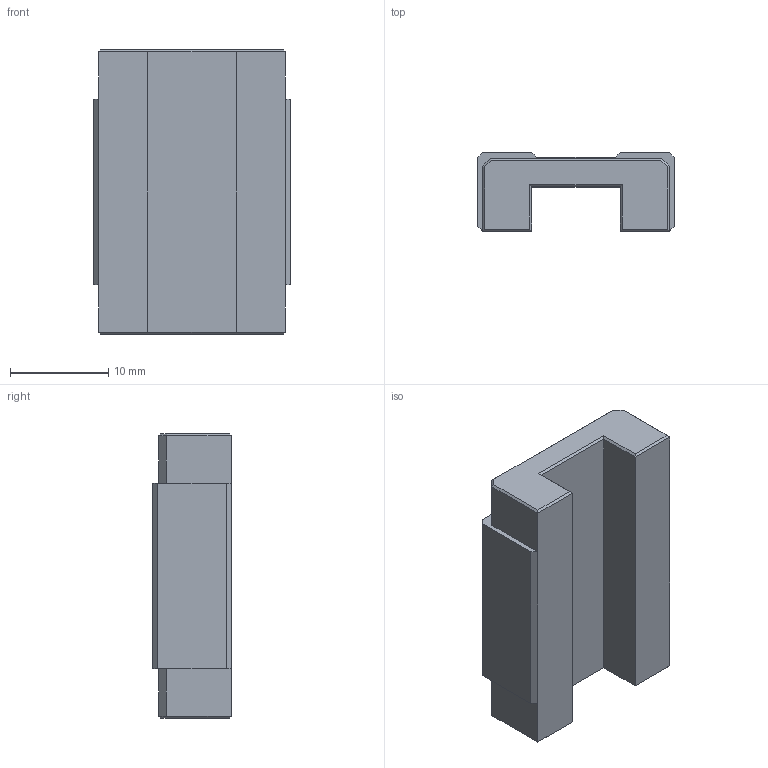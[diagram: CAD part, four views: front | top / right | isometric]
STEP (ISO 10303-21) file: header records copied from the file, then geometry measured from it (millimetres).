
FILE_DESCRIPTION(/* description */ (''),/* implementation_level */ '2;1');
FILE_NAME(/* name */ 'C:\Users\daviddillkoetter\ownCloud\Kamp und Kötter\Artikel\Miniaturfuehrungen_KPM\Step\KPMW-09C-BSZ0.stp',/* time_stamp */ '2020-12-07T12:24:07+01:00',/* author */ ('daviddillkoetter'),/* organization */ (''),/* preprocessor_version */ 'ST-DEVELOPER v18.1',/* originating_system */ 'Autodesk Inventor 2021',/* authorisation */ '');
FILE_SCHEMA (('AUTOMOTIVE_DESIGN { 1 0 10303 214 3 1 1 }'));
Length unit declared in the file: millimetre
Products named in the file (1): KPMW-09C-BSZ0
Bounding box: 20 x 8 x 28.9 mm (x, y, z)
Volume: 3060.6 mm3; surface area: 2192.2 mm2
Topology: 1 solids, 1 shells, 62 faces, 152 edges, 92 vertices
Faces by surface type: plane 50, cone 8, cylinder 4
Full cylindrical faces by diameter (mm): 2.459 x4
Entity records: 1819 total; most frequent: CARTESIAN_POINT 303, ORIENTED_EDGE 296, DIRECTION 290, EDGE_CURVE 148, LINE 132, VECTOR 132, VERTEX_POINT 92, AXIS2_PLACEMENT_3D 79
